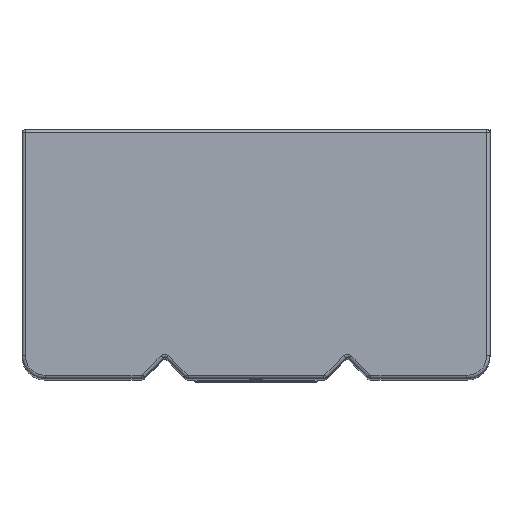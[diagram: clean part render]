
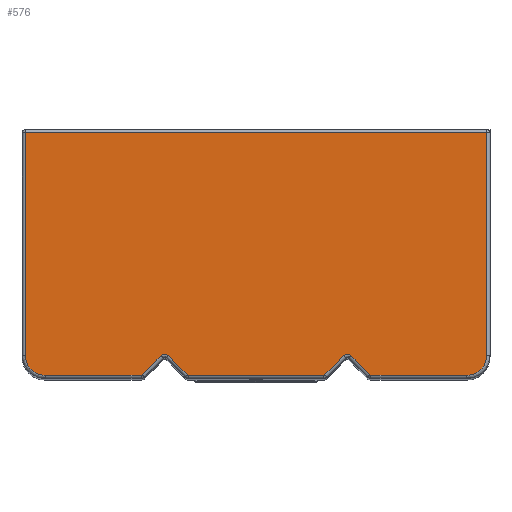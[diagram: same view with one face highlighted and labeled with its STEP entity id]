
A CAD part, top view. The second image highlights one B-rep face of the part: STEP entity #576.
In plain terms, the highlighted planar face has unit normal (0, 0, 1).
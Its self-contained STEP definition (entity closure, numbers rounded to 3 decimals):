
#576=ADVANCED_FACE('',(#1659),#16307,.T.);
#1659=FACE_OUTER_BOUND('',#2756,.T.);
#2756=EDGE_LOOP('',(#4754,#4755,#4756,#4757,#4758,#4759,#4760,#4761,#4762,
#4763,#4764,#4765,#4766,#4767,#4768,#4769,#4770,#4771));
#4754=ORIENTED_EDGE('',*,*,#9383,.T.);
#4755=ORIENTED_EDGE('',*,*,#9384,.T.);
#4756=ORIENTED_EDGE('',*,*,#9436,.T.);
#4757=ORIENTED_EDGE('',*,*,#9385,.T.);
#4758=ORIENTED_EDGE('',*,*,#9429,.T.);
#4759=ORIENTED_EDGE('',*,*,#9425,.T.);
#4760=ORIENTED_EDGE('',*,*,#9418,.T.);
#4761=ORIENTED_EDGE('',*,*,#9415,.T.);
#4762=ORIENTED_EDGE('',*,*,#9408,.T.);
#4763=ORIENTED_EDGE('',*,*,#9386,.T.);
#4764=ORIENTED_EDGE('',*,*,#9399,.T.);
#4765=ORIENTED_EDGE('',*,*,#9396,.T.);
#4766=ORIENTED_EDGE('',*,*,#9404,.T.);
#4767=ORIENTED_EDGE('',*,*,#9406,.T.);
#4768=ORIENTED_EDGE('',*,*,#9413,.T.);
#4769=ORIENTED_EDGE('',*,*,#9387,.T.);
#4770=ORIENTED_EDGE('',*,*,#9423,.T.);
#4771=ORIENTED_EDGE('',*,*,#9388,.T.);
#9383=EDGE_CURVE('',#14928,#14929,#11742,.T.);
#9384=EDGE_CURVE('',#14929,#14930,#11743,.T.);
#9385=EDGE_CURVE('',#14931,#14932,#11744,.T.);
#9386=EDGE_CURVE('',#14937,#14938,#11745,.T.);
#9387=EDGE_CURVE('',#14943,#14944,#11746,.T.);
#9388=EDGE_CURVE('',#14945,#14928,#11747,.T.);
#9396=EDGE_CURVE('',#14939,#14940,#11754,.T.);
#9399=EDGE_CURVE('',#14938,#14939,#13394,.T.);
#9404=EDGE_CURVE('',#14940,#14941,#13399,.T.);
#9406=EDGE_CURVE('',#14941,#14942,#11757,.T.);
#9408=EDGE_CURVE('',#14936,#14937,#13401,.T.);
#9413=EDGE_CURVE('',#14942,#14943,#13406,.T.);
#9415=EDGE_CURVE('',#14935,#14936,#11758,.T.);
#9418=EDGE_CURVE('',#14934,#14935,#13409,.T.);
#9423=EDGE_CURVE('',#14944,#14945,#13414,.T.);
#9425=EDGE_CURVE('',#14933,#14934,#11760,.T.);
#9429=EDGE_CURVE('',#14932,#14933,#13418,.T.);
#9436=EDGE_CURVE('',#14930,#14931,#13425,.T.);
#11742=B_SPLINE_CURVE_WITH_KNOTS('',1,(#29060,#29061),.UNSPECIFIED.,.F.,
 .F.,(2,2),(0.,278.),.UNSPECIFIED.);
#11743=B_SPLINE_CURVE_WITH_KNOTS('',1,(#29062,#29063),.UNSPECIFIED.,.F.,
 .F.,(2,2),(0.,134.),.UNSPECIFIED.);
#11744=B_SPLINE_CURVE_WITH_KNOTS('',1,(#29064,#29065),.UNSPECIFIED.,.F.,
 .F.,(2,2),(0.,57.757),.UNSPECIFIED.);
#11745=B_SPLINE_CURVE_WITH_KNOTS('',1,(#29066,#29067),.UNSPECIFIED.,.F.,
 .F.,(2,2),(0.,81.515),.UNSPECIFIED.);
#11746=B_SPLINE_CURVE_WITH_KNOTS('',1,(#29068,#29069),.UNSPECIFIED.,.F.,
 .F.,(2,2),(0.,57.757),.UNSPECIFIED.);
#11747=B_SPLINE_CURVE_WITH_KNOTS('',1,(#29070,#29071),.UNSPECIFIED.,.F.,
 .F.,(2,2),(0.,134.),.UNSPECIFIED.);
#11754=B_SPLINE_CURVE_WITH_KNOTS('',1,(#29087,#29088),.UNSPECIFIED.,.F.,
 .F.,(2,2),(-16.142,0.),.UNSPECIFIED.);
#11757=B_SPLINE_CURVE_WITH_KNOTS('',1,(#29114,#29115),.UNSPECIFIED.,.F.,
 .F.,(2,2),(-16.142,0.),.UNSPECIFIED.);
#11758=B_SPLINE_CURVE_WITH_KNOTS('',1,(#29140,#29141),.UNSPECIFIED.,.F.,
 .F.,(2,2),(-16.142,0.),.UNSPECIFIED.);
#11760=B_SPLINE_CURVE_WITH_KNOTS('',1,(#29168,#29169),.UNSPECIFIED.,.F.,
 .F.,(2,2),(-16.142,0.),.UNSPECIFIED.);
#13394=TRIMMED_CURVE($,#14123,(#29095),(#29096),.T.,.CARTESIAN.);
#13399=TRIMMED_CURVE($,#14128,(#29110),(#29111),.T.,.CARTESIAN.);
#13401=TRIMMED_CURVE($,#14130,(#29120),(#29121),.T.,.CARTESIAN.);
#13406=TRIMMED_CURVE($,#14135,(#29135),(#29136),.T.,.CARTESIAN.);
#13409=TRIMMED_CURVE($,#14138,(#29148),(#29149),.T.,.CARTESIAN.);
#13414=TRIMMED_CURVE($,#14143,(#29163),(#29164),.T.,.CARTESIAN.);
#13418=TRIMMED_CURVE($,#14147,(#29179),(#29180),.T.,.CARTESIAN.);
#13425=TRIMMED_CURVE($,#14154,(#29200),(#29201),.T.,.CARTESIAN.);
#14123=CIRCLE('',#18141,1.);
#14128=CIRCLE('',#18146,3.);
#14130=CIRCLE('',#18148,1.);
#14135=CIRCLE('',#18153,1.);
#14138=CIRCLE('',#18156,3.);
#14143=CIRCLE('',#18161,12.);
#14147=CIRCLE('',#18165,1.);
#14154=CIRCLE('',#18172,12.);
#14928=VERTEX_POINT('',#29022);
#14929=VERTEX_POINT('',#29023);
#14930=VERTEX_POINT('',#29024);
#14931=VERTEX_POINT('',#29025);
#14932=VERTEX_POINT('',#29026);
#14933=VERTEX_POINT('',#29027);
#14934=VERTEX_POINT('',#29028);
#14935=VERTEX_POINT('',#29029);
#14936=VERTEX_POINT('',#29030);
#14937=VERTEX_POINT('',#29031);
#14938=VERTEX_POINT('',#29032);
#14939=VERTEX_POINT('',#29033);
#14940=VERTEX_POINT('',#29034);
#14941=VERTEX_POINT('',#29035);
#14942=VERTEX_POINT('',#29036);
#14943=VERTEX_POINT('',#29037);
#14944=VERTEX_POINT('',#29038);
#14945=VERTEX_POINT('',#29039);
#16307=PLANE('',#18127);
#18127=AXIS2_PLACEMENT_3D('',#28272,#20016,$);
#18141=AXIS2_PLACEMENT_3D($,#29094,#20032,#20033);
#18146=AXIS2_PLACEMENT_3D($,#29109,#20042,#20043);
#18148=AXIS2_PLACEMENT_3D($,#29119,#20046,#20047);
#18153=AXIS2_PLACEMENT_3D($,#29134,#20056,#20057);
#18156=AXIS2_PLACEMENT_3D($,#29147,#20062,#20063);
#18161=AXIS2_PLACEMENT_3D($,#29162,#20072,#20073);
#18165=AXIS2_PLACEMENT_3D($,#29178,#20080,#20081);
#18172=AXIS2_PLACEMENT_3D($,#29199,#20094,#20095);
#20016=DIRECTION('',(0.,0.,1.));
#20032=DIRECTION('',(0.,0.,1.));
#20033=DIRECTION('',(0.,-1.,0.));
#20042=DIRECTION('',(0.,0.,-1.));
#20043=DIRECTION('',(-0.707,0.707,0.));
#20046=DIRECTION('',(0.,0.,1.));
#20047=DIRECTION('',(-0.707,-0.707,0.));
#20056=DIRECTION('',(0.,0.,1.));
#20057=DIRECTION('',(-0.707,-0.707,0.));
#20062=DIRECTION('',(0.,0.,-1.));
#20063=DIRECTION('',(-0.707,0.707,0.));
#20072=DIRECTION('',(0.,0.,1.));
#20073=DIRECTION('',(0.,-1.,0.));
#20080=DIRECTION('',(0.,0.,1.));
#20081=DIRECTION('',(0.,-1.,0.));
#20094=DIRECTION('',(0.,0.,1.));
#20095=DIRECTION('',(-1.,0.,0.));
#28272=CARTESIAN_POINT('',(166.8,42.6,280.));
#29022=CARTESIAN_POINT('',(139.,28.,280.));
#29023=CARTESIAN_POINT('',(-139.,28.,280.));
#29024=CARTESIAN_POINT('',(-139.,-106.,280.));
#29025=CARTESIAN_POINT('',(-127.,-118.,280.));
#29026=CARTESIAN_POINT('',(-69.243,-118.,280.));
#29027=CARTESIAN_POINT('',(-68.536,-117.707,280.));
#29028=CARTESIAN_POINT('',(-57.121,-106.293,280.));
#29029=CARTESIAN_POINT('',(-52.879,-106.293,280.));
#29030=CARTESIAN_POINT('',(-41.464,-117.707,280.));
#29031=CARTESIAN_POINT('',(-40.757,-118.,280.));
#29032=CARTESIAN_POINT('',(40.757,-118.,280.));
#29033=CARTESIAN_POINT('',(41.464,-117.707,280.));
#29034=CARTESIAN_POINT('',(52.879,-106.293,280.));
#29035=CARTESIAN_POINT('',(57.121,-106.293,280.));
#29036=CARTESIAN_POINT('',(68.536,-117.707,280.));
#29037=CARTESIAN_POINT('',(69.243,-118.,280.));
#29038=CARTESIAN_POINT('',(127.,-118.,280.));
#29039=CARTESIAN_POINT('',(139.,-106.,280.));
#29060=CARTESIAN_POINT('',(139.,28.,280.));
#29061=CARTESIAN_POINT('',(-139.,28.,280.));
#29062=CARTESIAN_POINT('',(-139.,28.,280.));
#29063=CARTESIAN_POINT('',(-139.,-106.,280.));
#29064=CARTESIAN_POINT('',(-127.,-118.,280.));
#29065=CARTESIAN_POINT('',(-69.243,-118.,280.));
#29066=CARTESIAN_POINT('',(-40.757,-118.,280.));
#29067=CARTESIAN_POINT('',(40.757,-118.,280.));
#29068=CARTESIAN_POINT('',(69.243,-118.,280.));
#29069=CARTESIAN_POINT('',(127.,-118.,280.));
#29070=CARTESIAN_POINT('',(139.,-106.,280.));
#29071=CARTESIAN_POINT('',(139.,28.,280.));
#29087=CARTESIAN_POINT('',(41.464,-117.707,280.));
#29088=CARTESIAN_POINT('',(52.879,-106.293,280.));
#29094=CARTESIAN_POINT('',(40.757,-117.,280.));
#29095=CARTESIAN_POINT('',(40.757,-118.,280.));
#29096=CARTESIAN_POINT('',(41.464,-117.707,280.));
#29109=CARTESIAN_POINT('',(55.,-108.414,280.));
#29110=CARTESIAN_POINT('',(52.879,-106.293,280.));
#29111=CARTESIAN_POINT('',(57.121,-106.293,280.));
#29114=CARTESIAN_POINT('',(57.121,-106.293,280.));
#29115=CARTESIAN_POINT('',(68.536,-117.707,280.));
#29119=CARTESIAN_POINT('',(-40.757,-117.,280.));
#29120=CARTESIAN_POINT('',(-41.464,-117.707,280.));
#29121=CARTESIAN_POINT('',(-40.757,-118.,280.));
#29134=CARTESIAN_POINT('',(69.243,-117.,280.));
#29135=CARTESIAN_POINT('',(68.536,-117.707,280.));
#29136=CARTESIAN_POINT('',(69.243,-118.,280.));
#29140=CARTESIAN_POINT('',(-52.879,-106.293,280.));
#29141=CARTESIAN_POINT('',(-41.464,-117.707,280.));
#29147=CARTESIAN_POINT('',(-55.,-108.414,280.));
#29148=CARTESIAN_POINT('',(-57.121,-106.293,280.));
#29149=CARTESIAN_POINT('',(-52.879,-106.293,280.));
#29162=CARTESIAN_POINT('',(127.,-106.,280.));
#29163=CARTESIAN_POINT('',(127.,-118.,280.));
#29164=CARTESIAN_POINT('',(139.,-106.,280.));
#29168=CARTESIAN_POINT('',(-68.536,-117.707,280.));
#29169=CARTESIAN_POINT('',(-57.121,-106.293,280.));
#29178=CARTESIAN_POINT('',(-69.243,-117.,280.));
#29179=CARTESIAN_POINT('',(-69.243,-118.,280.));
#29180=CARTESIAN_POINT('',(-68.536,-117.707,280.));
#29199=CARTESIAN_POINT('',(-127.,-106.,280.));
#29200=CARTESIAN_POINT('',(-139.,-106.,280.));
#29201=CARTESIAN_POINT('',(-127.,-118.,280.));
